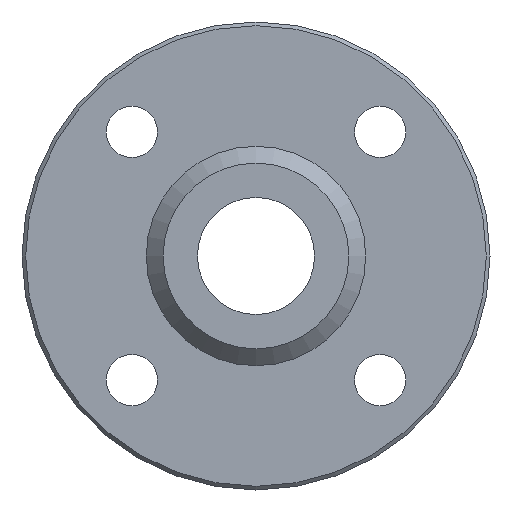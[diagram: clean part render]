
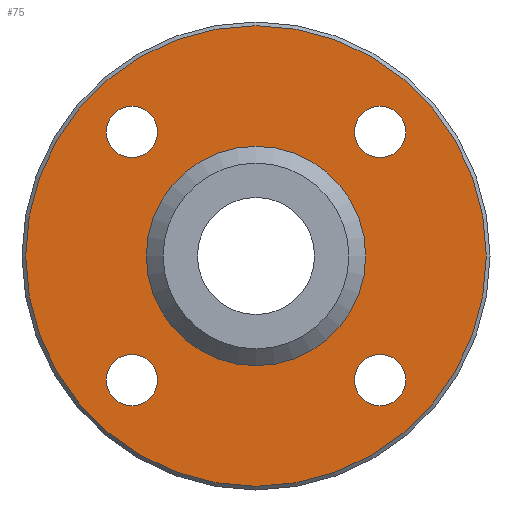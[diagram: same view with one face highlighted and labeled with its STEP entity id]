
A CAD part, left-side view. The second image highlights one B-rep face of the part: STEP entity #75.
In plain terms, the highlighted planar face has unit normal (-1, 0, 0).
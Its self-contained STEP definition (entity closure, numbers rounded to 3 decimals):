
#75=ADVANCED_FACE('',(#97,#98,#99,#100,#101,#102),#103,.T.);
#97=FACE_BOUND('',#168,.T.);
#98=FACE_BOUND('',#169,.T.);
#99=FACE_BOUND('',#170,.T.);
#100=FACE_BOUND('',#171,.T.);
#101=FACE_OUTER_BOUND('',#172,.T.);
#102=FACE_BOUND('',#173,.T.);
#103=PLANE('',#174);
#168=EDGE_LOOP('',(#239));
#169=EDGE_LOOP('',(#240));
#170=EDGE_LOOP('',(#241));
#171=EDGE_LOOP('',(#242));
#172=EDGE_LOOP('',(#243));
#173=EDGE_LOOP('',(#244));
#174=AXIS2_PLACEMENT_3D('',#245,#246,#247);
#239=ORIENTED_EDGE('',*,*,#352,.F.);
#240=ORIENTED_EDGE('',*,*,#353,.F.);
#241=ORIENTED_EDGE('',*,*,#354,.F.);
#242=ORIENTED_EDGE('',*,*,#355,.F.);
#243=ORIENTED_EDGE('',*,*,#356,.T.);
#244=ORIENTED_EDGE('',*,*,#357,.F.);
#245=CARTESIAN_POINT('',(-8.0,7.5,0.0));
#246=DIRECTION('',(-1.0,0.0,0.0));
#247=DIRECTION('',(0.0,0.0,1.0));
#352=EDGE_CURVE('',#377,#377,#378,.T.);
#353=EDGE_CURVE('',#379,#379,#380,.T.);
#354=EDGE_CURVE('',#381,#381,#382,.T.);
#355=EDGE_CURVE('',#383,#383,#384,.T.);
#356=EDGE_CURVE('',#385,#385,#386,.T.);
#357=EDGE_CURVE('',#387,#387,#388,.T.);
#377=VERTEX_POINT('',#427);
#378=CIRCLE('',#428,1.75);
#379=VERTEX_POINT('',#429);
#380=CIRCLE('',#430,1.75);
#381=VERTEX_POINT('',#431);
#382=CIRCLE('',#432,1.75);
#383=VERTEX_POINT('',#433);
#384=CIRCLE('',#434,1.75);
#385=VERTEX_POINT('',#435);
#386=CIRCLE('',#436,15.746);
#387=VERTEX_POINT('',#437);
#388=CIRCLE('',#438,7.5);
#427=CARTESIAN_POINT('',(-8.0,8.485,-6.735));
#428=AXIS2_PLACEMENT_3D('',#477,#478,#479);
#429=CARTESIAN_POINT('',(-8.0,-8.485,-6.735));
#430=AXIS2_PLACEMENT_3D('',#480,#481,#482);
#431=CARTESIAN_POINT('',(-8.0,-8.485,10.235));
#432=AXIS2_PLACEMENT_3D('',#483,#484,#485);
#433=CARTESIAN_POINT('',(-8.0,8.485,10.235));
#434=AXIS2_PLACEMENT_3D('',#486,#487,#488);
#435=CARTESIAN_POINT('',(-8.0,0.0,15.746));
#436=AXIS2_PLACEMENT_3D('',#489,#490,#491);
#437=CARTESIAN_POINT('',(-8.0,0.0,7.5));
#438=AXIS2_PLACEMENT_3D('',#492,#493,#494);
#477=CARTESIAN_POINT('',(-8.0,8.485,-8.485));
#478=DIRECTION('',(-1.0,0.0,0.0));
#479=DIRECTION('',(0.0,0.0,1.0));
#480=CARTESIAN_POINT('',(-8.0,-8.485,-8.485));
#481=DIRECTION('',(-1.0,0.0,0.0));
#482=DIRECTION('',(0.0,0.0,1.0));
#483=CARTESIAN_POINT('',(-8.0,-8.485,8.485));
#484=DIRECTION('',(-1.0,0.0,0.0));
#485=DIRECTION('',(0.0,0.0,1.0));
#486=CARTESIAN_POINT('',(-8.0,8.485,8.485));
#487=DIRECTION('',(-1.0,0.0,0.0));
#488=DIRECTION('',(0.0,0.0,1.0));
#489=CARTESIAN_POINT('',(-8.0,0.0,0.0));
#490=DIRECTION('',(-1.0,0.0,0.0));
#491=DIRECTION('',(0.0,0.0,1.0));
#492=CARTESIAN_POINT('',(-8.0,0.0,0.0));
#493=DIRECTION('',(-1.0,0.0,0.0));
#494=DIRECTION('',(0.0,0.0,1.0));
